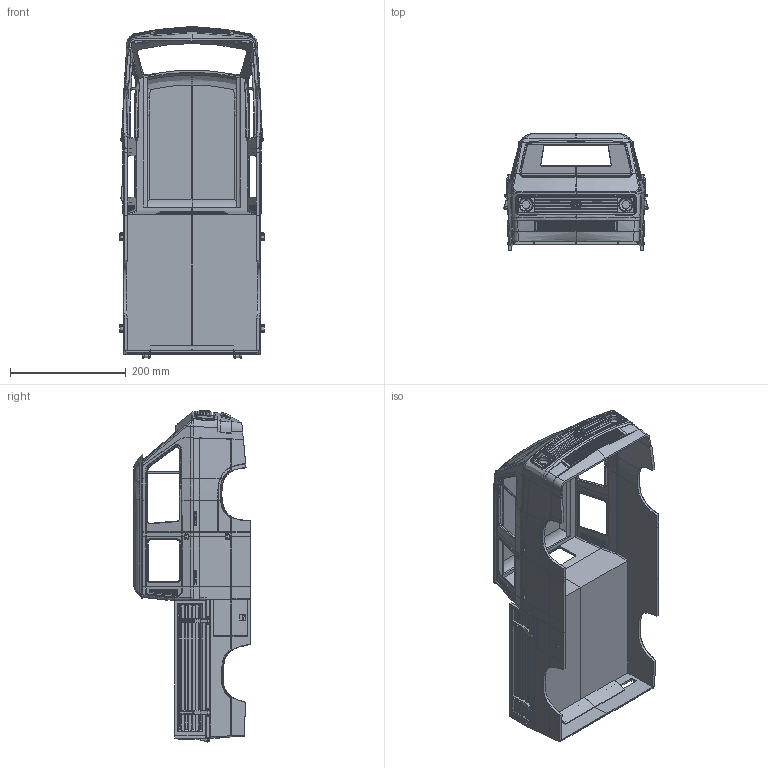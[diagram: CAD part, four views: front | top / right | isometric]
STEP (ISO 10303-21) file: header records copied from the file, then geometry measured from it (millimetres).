
FILE_DESCRIPTION(/* description */ (''),/* implementation_level */ '2;1');
FILE_NAME(/* name */ '/Users/alexmichaelbogusky/Desktop/VW Doka v22.step',/* time_stamp */ '2019-02-18T09:10:54-07:00',/* author */ ('alex@bogusky.me'),/* organization */ (''),/* preprocessor_version */ 'ST-DEVELOPER v17.2',/* originating_system */ 'Autodesk Translation Framework v7.6.0.251',/* authorisation */ '');
FILE_SCHEMA (('AUTOMOTIVE_DESIGN { 1 0 10303 214 3 1 1 }'));
Products named in the file (1): VW Doka
Bounding box: 248.74 x 201.19 x 573.11 mm (x, y, z)
Volume: 1000082.4 mm3; surface area: 725136.9 mm2
Topology: 6 solids, 8 shells, 3902 faces, 9875 edges, 6057 vertices
Faces by surface type: plane 1520, cylinder 1426, bspline 547, sphere 224, torus 179, cone 6
Full cylindrical faces by diameter (mm): 2 x4, 2.6 x18, 3.512 x3, 23.609 x2
Entity records: 141965 total; most frequent: CARTESIAN_POINT 50493, ORIENTED_EDGE 19746, DIRECTION 18248, EDGE_CURVE 9873, AXIS2_PLACEMENT_3D 6561, VERTEX_POINT 6059, LINE 5126, VECTOR 5126
